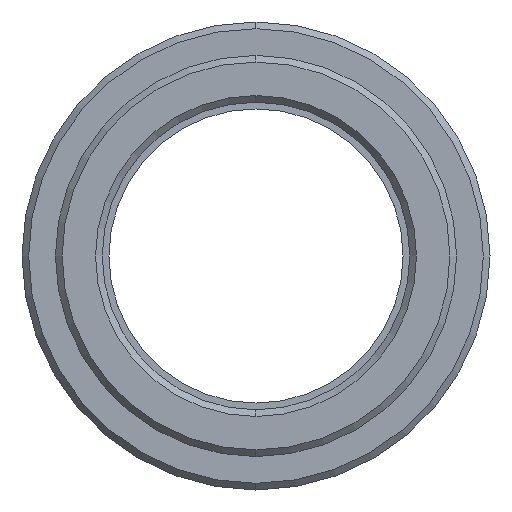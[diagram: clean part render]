
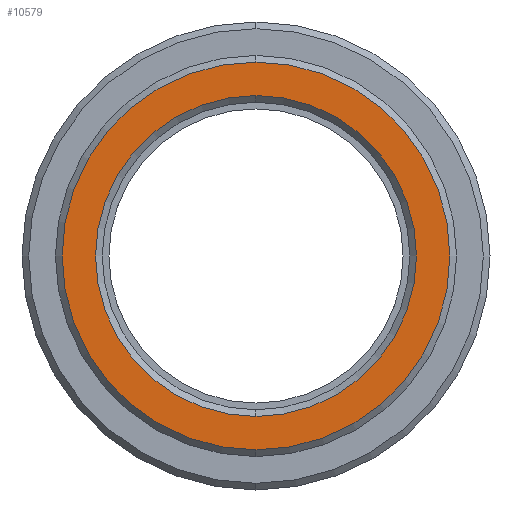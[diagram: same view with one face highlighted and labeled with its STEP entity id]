
A CAD part, left-side view. The second image highlights one B-rep face of the part: STEP entity #10579.
In plain terms, the highlighted planar face has unit normal (-1, 0, 0).
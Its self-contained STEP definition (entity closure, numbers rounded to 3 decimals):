
#4144=CARTESIAN_POINT('',(-8.,0.,0.));
#4145=DIRECTION('',(1.,0.,0.));
#4146=DIRECTION('',(0.,0.,-1.));
#4147=AXIS2_PLACEMENT_3D('',#4144,#4145,#4146);
#4149=CARTESIAN_POINT('',(-8.,0.,0.));
#4150=DIRECTION('',(1.,0.,0.));
#4151=DIRECTION('',(0.,0.,1.));
#4152=AXIS2_PLACEMENT_3D('',#4149,#4150,#4151);
#4154=CARTESIAN_POINT('',(-8.,0.,0.));
#4155=DIRECTION('',(1.,0.,0.));
#4156=DIRECTION('',(0.,0.,1.));
#4157=AXIS2_PLACEMENT_3D('',#4154,#4155,#4156);
#4159=CARTESIAN_POINT('',(-8.,0.,0.));
#4160=DIRECTION('',(1.,0.,0.));
#4161=DIRECTION('',(0.,0.,-1.));
#4162=AXIS2_PLACEMENT_3D('',#4159,#4160,#4161);
#8876=CARTESIAN_POINT('',(-8.,0.,-14.5));
#8877=CARTESIAN_POINT('',(-8.,0.,14.5));
#8878=VERTEX_POINT('',#8876);
#8879=VERTEX_POINT('',#8877);
#8888=CARTESIAN_POINT('',(-8.,0.,12.));
#8889=CARTESIAN_POINT('',(-8.,0.,-12.));
#8890=VERTEX_POINT('',#8888);
#8891=VERTEX_POINT('',#8889);
#10563=CARTESIAN_POINT('',(-8.,0.,0.));
#10564=DIRECTION('',(1.,0.,0.));
#10565=DIRECTION('',(0.,0.,1.));
#10566=AXIS2_PLACEMENT_3D('',#10563,#10564,#10565);
#10567=PLANE('',#10566);
#10569=ORIENTED_EDGE('',*,*,#10568,.T.);
#10571=ORIENTED_EDGE('',*,*,#10570,.T.);
#10572=EDGE_LOOP('',(#10569,#10571));
#10573=FACE_OUTER_BOUND('',#10572,.F.);
#10575=ORIENTED_EDGE('',*,*,#10574,.F.);
#10576=ORIENTED_EDGE('',*,*,#10553,.F.);
#10577=EDGE_LOOP('',(#10575,#10576));
#10578=FACE_BOUND('',#10577,.F.);
#10579=ADVANCED_FACE('',(#10573,#10578),#10567,.F.);
#4148=CIRCLE('',#4147,14.5);
#4153=CIRCLE('',#4152,14.5);
#4158=CIRCLE('',#4157,12.);
#4163=CIRCLE('',#4162,12.);
#10553=EDGE_CURVE('',#8891,#8890,#4163,.T.);
#10568=EDGE_CURVE('',#8878,#8879,#4148,.T.);
#10570=EDGE_CURVE('',#8879,#8878,#4153,.T.);
#10574=EDGE_CURVE('',#8890,#8891,#4158,.T.);
